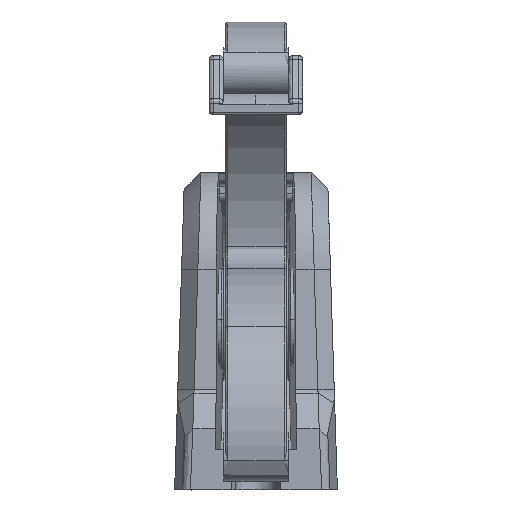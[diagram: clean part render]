
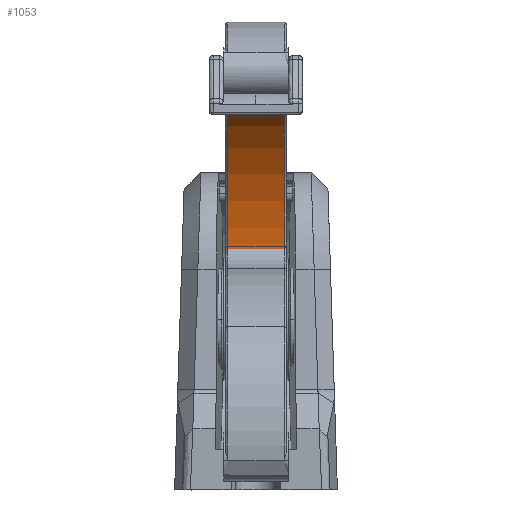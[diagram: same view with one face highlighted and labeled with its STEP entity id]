
A CAD part, left-side view. The second image highlights one B-rep face of the part: STEP entity #1053.
In plain terms, the highlighted free-form (B-spline) face has degree [2, 1] with [3, 2] control points.
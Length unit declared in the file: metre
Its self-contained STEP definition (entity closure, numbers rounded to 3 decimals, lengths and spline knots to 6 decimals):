
#1053 = ADVANCED_FACE( '', ( #2415 ), #2416, .T. );
#2415 = FACE_OUTER_BOUND( '', #7820, .T. );
#2416 = ( BOUNDED_SURFACE(  )B_SPLINE_SURFACE( 2, 1, ( ( #7823, #7824 ), ( #7825, #7826 ), ( #7827, #7828 ) ), .UNSPECIFIED., .F., .F., .F. )B_SPLINE_SURFACE_WITH_KNOTS( ( 3, 3 ), ( 2, 2 ), ( 0., 1. ), ( 0.04, 0.96 ), .UNSPECIFIED. )GEOMETRIC_REPRESENTATION_ITEM(  )RATIONAL_B_SPLINE_SURFACE( ( ( 1., 1. ), ( 0.794, 0.794 ), ( 1., 1. ) ) )REPRESENTATION_ITEM( '' )SURFACE(  ) );
#7820 = EDGE_LOOP( '', ( #15989, #15990, #15991, #15992 ) );
#7823 = CARTESIAN_POINT( '', ( -0.039271, 0.0069, 0.102829 ) );
#7824 = CARTESIAN_POINT( '', ( -0.039271, -0.0069, 0.102829 ) );
#7825 = CARTESIAN_POINT( '', ( -0.001846, 0.0069, 0.094977 ) );
#7826 = CARTESIAN_POINT( '', ( -0.001846, -0.0069, 0.094977 ) );
#7827 = CARTESIAN_POINT( '', ( 0.000378, 0.0069, 0.056802 ) );
#7828 = CARTESIAN_POINT( '', ( 0.000378, -0.0069, 0.056802 ) );
#15989 = ORIENTED_EDGE( '', *, *, #18102, .F. );
#15990 = ORIENTED_EDGE( '', *, *, #18587, .F. );
#15991 = ORIENTED_EDGE( '', *, *, #18898, .T. );
#15992 = ORIENTED_EDGE( '', *, *, #18899, .F. );
#18102 = EDGE_CURVE( '', #19969, #20063, #20066, .T. );
#18587 = EDGE_CURVE( '', #20867, #19969, #20869, .T. );
#18898 = EDGE_CURVE( '', #20867, #21002, #21339, .T. );
#18899 = EDGE_CURVE( '', #20063, #21002, #21340, .T. );
#19969 = VERTEX_POINT( '', #24475 );
#20063 = VERTEX_POINT( '', #24896 );
#20066 = ( BOUNDED_CURVE(  )B_SPLINE_CURVE( 2, ( #24954, #24955, #24956 ), .UNSPECIFIED., .F., .F. )B_SPLINE_CURVE_WITH_KNOTS( ( 3, 3 ), ( 0., 1. ), .UNSPECIFIED. )CURVE(  )GEOMETRIC_REPRESENTATION_ITEM(  )RATIONAL_B_SPLINE_CURVE( ( 1., 0.794, 1. ) )REPRESENTATION_ITEM( '' ) );
#20867 = VERTEX_POINT( '', #30308 );
#20869 = B_SPLINE_CURVE_WITH_KNOTS( '', 1, ( #30319, #30320 ), .UNSPECIFIED., .F., .F., ( 2, 2 ), ( 0.04, 0.96 ), .UNSPECIFIED. );
#21002 = VERTEX_POINT( '', #30970 );
#21339 = ( BOUNDED_CURVE(  )B_SPLINE_CURVE( 2, ( #33031, #33032, #33033 ), .UNSPECIFIED., .F., .F. )B_SPLINE_CURVE_WITH_KNOTS( ( 3, 3 ), ( 0., 1. ), .UNSPECIFIED. )CURVE(  )GEOMETRIC_REPRESENTATION_ITEM(  )RATIONAL_B_SPLINE_CURVE( ( 1., 0.794, 1. ) )REPRESENTATION_ITEM( '' ) );
#21340 = B_SPLINE_CURVE_WITH_KNOTS( '', 1, ( #33039, #33040 ), .UNSPECIFIED., .F., .F., ( 2, 2 ), ( 0.04, 0.96 ), .UNSPECIFIED. );
#24475 = CARTESIAN_POINT( '', ( -0.039271, -0.0069, 0.102829 ) );
#24896 = CARTESIAN_POINT( '', ( 0.000378, -0.0069, 0.056802 ) );
#24954 = CARTESIAN_POINT( '', ( -0.039271, -0.0069, 0.102829 ) );
#24955 = CARTESIAN_POINT( '', ( -0.001846, -0.0069, 0.094977 ) );
#24956 = CARTESIAN_POINT( '', ( 0.000378, -0.0069, 0.056802 ) );
#30308 = CARTESIAN_POINT( '', ( -0.039271, 0.0069, 0.102829 ) );
#30319 = CARTESIAN_POINT( '', ( -0.039271, 0.0069, 0.102829 ) );
#30320 = CARTESIAN_POINT( '', ( -0.039271, -0.0069, 0.102829 ) );
#30970 = CARTESIAN_POINT( '', ( 0.000378, 0.0069, 0.056802 ) );
#33031 = CARTESIAN_POINT( '', ( -0.039271, 0.0069, 0.102829 ) );
#33032 = CARTESIAN_POINT( '', ( -0.001846, 0.0069, 0.094977 ) );
#33033 = CARTESIAN_POINT( '', ( 0.000378, 0.0069, 0.056802 ) );
#33039 = CARTESIAN_POINT( '', ( 0.000378, -0.0069, 0.056802 ) );
#33040 = CARTESIAN_POINT( '', ( 0.000378, 0.0069, 0.056802 ) );
